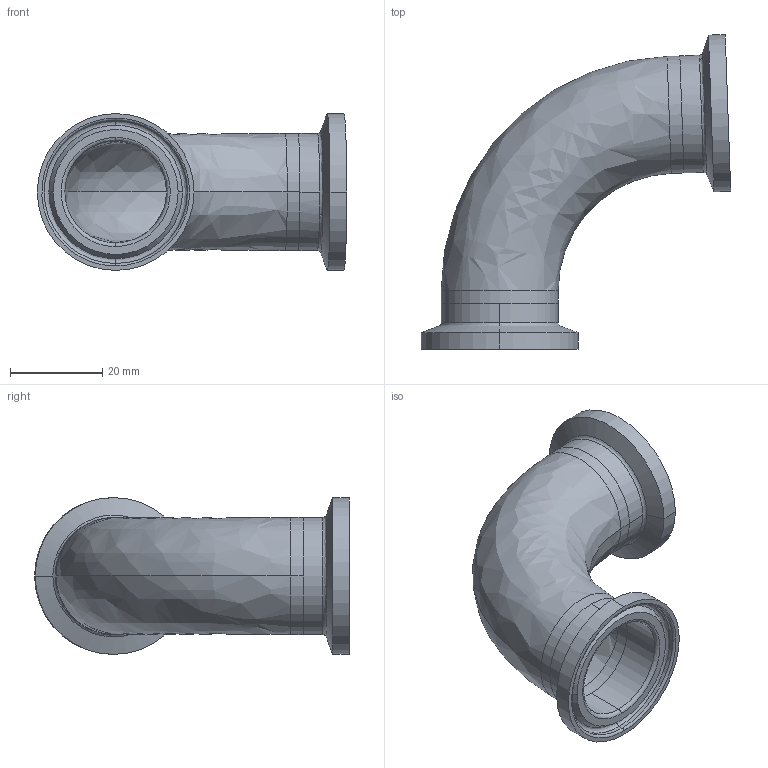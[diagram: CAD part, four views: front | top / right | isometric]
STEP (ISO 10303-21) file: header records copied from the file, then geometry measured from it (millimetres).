
FILE_DESCRIPTION (( 'STEP AP214' ), '1' );
FILE_NAME ('TEG2C886L1.0-.._Type A.STEP', '2016-05-22T08:56:03', ( 'eran' ), ( '' ), 'SwSTEP 2.0', 'SolidWorks 2016', '' );
FILE_SCHEMA (( 'AUTOMOTIVE_DESIGN' ));
Length unit declared in the file: millimetre
Products named in the file (1): TEG2C886L1.0-.._Type A
Bounding box: 67.13 x 68.3 x 34.01 mm (x, y, z)
Volume: 12910.6 mm3; surface area: 15147.1 mm2
Topology: 3 solids, 3 shells, 60 faces, 134 edges, 82 vertices
Faces by surface type: cylinder 24, bspline 20, plane 8, cone 8
Entity records: 1980 total; most frequent: CARTESIAN_POINT 601, DIRECTION 302, ORIENTED_EDGE 268, AXIS2_PLACEMENT_3D 135, EDGE_CURVE 134, CIRCLE 94, VERTEX_POINT 82, EDGE_LOOP 68
